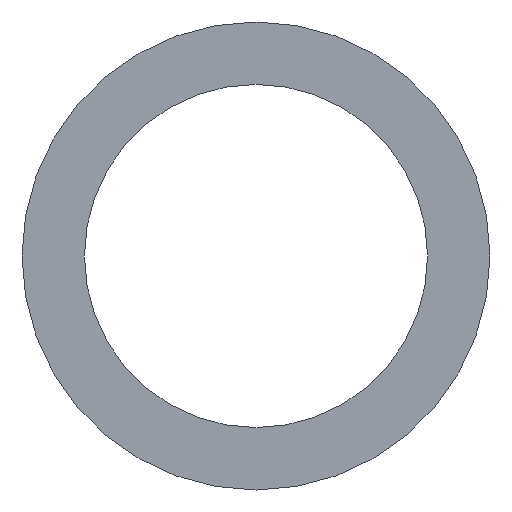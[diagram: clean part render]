
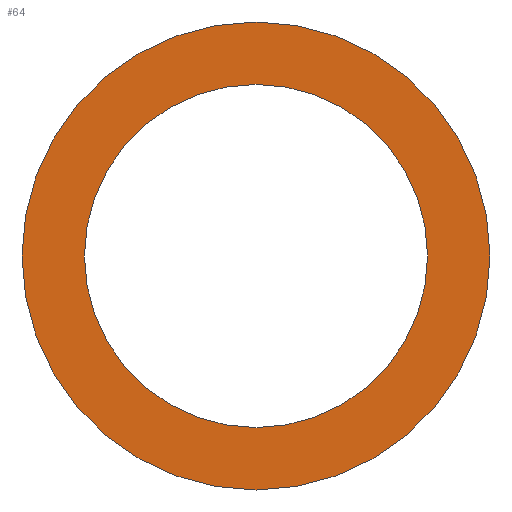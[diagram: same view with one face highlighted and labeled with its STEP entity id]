
A CAD part, front view. The second image highlights one B-rep face of the part: STEP entity #64.
In plain terms, the highlighted planar face has unit normal (0, -1, 0).
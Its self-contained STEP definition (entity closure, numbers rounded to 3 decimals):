
#22=FACE_BOUND('',#32,.T.);
#26=FACE_OUTER_BOUND('',#31,.T.);
#31=EDGE_LOOP('',(#57));
#32=EDGE_LOOP('',(#58));
#35=CIRCLE('',#83,3.);
#36=CIRCLE('',#85,2.2);
#39=VERTEX_POINT('',#114);
#40=VERTEX_POINT('',#118);
#44=EDGE_CURVE('',#39,#39,#35,.T.);
#46=EDGE_CURVE('',#40,#40,#36,.T.);
#57=ORIENTED_EDGE('',*,*,#44,.F.);
#58=ORIENTED_EDGE('',*,*,#46,.F.);
#60=PLANE('',#86);
#64=ADVANCED_FACE('',(#26,#22),#60,.F.);
#83=AXIS2_PLACEMENT_3D('',#116,#98,#99);
#85=AXIS2_PLACEMENT_3D('',#120,#103,#104);
#86=AXIS2_PLACEMENT_3D('',#121,#105,#106);
#98=DIRECTION('center_axis',(0.,1.,0.));
#99=DIRECTION('ref_axis',(-1.,0.,0.));
#103=DIRECTION('center_axis',(0.,-1.,0.));
#104=DIRECTION('ref_axis',(-1.,0.,0.));
#105=DIRECTION('center_axis',(0.,1.,0.));
#106=DIRECTION('ref_axis',(-1.,0.,0.));
#114=CARTESIAN_POINT('',(3.,10.2,-22.75));
#116=CARTESIAN_POINT('Origin',(0.,10.2,-22.75));
#118=CARTESIAN_POINT('',(2.2,10.2,-22.75));
#120=CARTESIAN_POINT('Origin',(0.,10.2,-22.75));
#121=CARTESIAN_POINT('Origin',(0.,10.2,-22.75));
